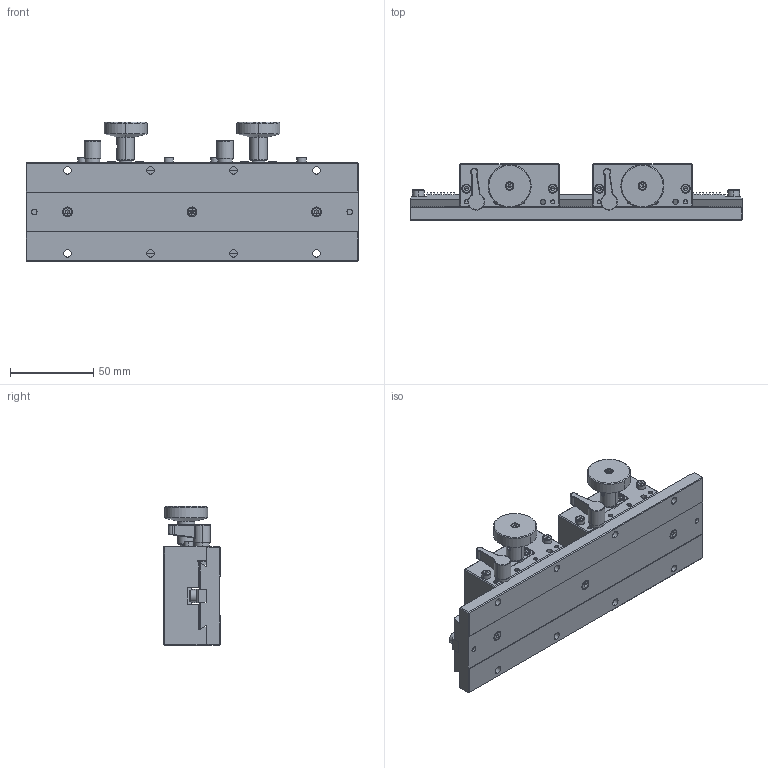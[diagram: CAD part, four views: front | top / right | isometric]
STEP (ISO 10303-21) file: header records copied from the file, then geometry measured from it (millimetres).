
FILE_DESCRIPTION (( 'STEP AP203' ), '1' );
FILE_NAME ('AD140C-60D2(AP203).STEP', '2020-10-29T07:54:55', ( 'China' ), ( 'Microsoft' ), 'SwSTEP 2.0', 'SolidWorks 2017', '' );
FILE_SCHEMA (( 'CONFIG_CONTROL_DESIGN' ));
Length unit declared in the file: millimetre
Products named in the file (1): AD140C-60D2(AP203)
Bounding box: 200 x 34 x 83.99 mm (x, y, z)
Surface area: 73799.4 mm2 (no closed solid volume)
Topology: 0 solids, 51 shells, 774 faces, 2445 edges, 1618 vertices
Faces by surface type: plane 438, cylinder 226, cone 54, torus 50, bspline 6
Entity records: 27212 total; most frequent: CARTESIAN_POINT 5498, DIRECTION 4655, ORIENTED_EDGE 3976, EDGE_CURVE 2415, VERTEX_POINT 1618, VECTOR 1593, LINE 1593, AXIS2_PLACEMENT_3D 1531
